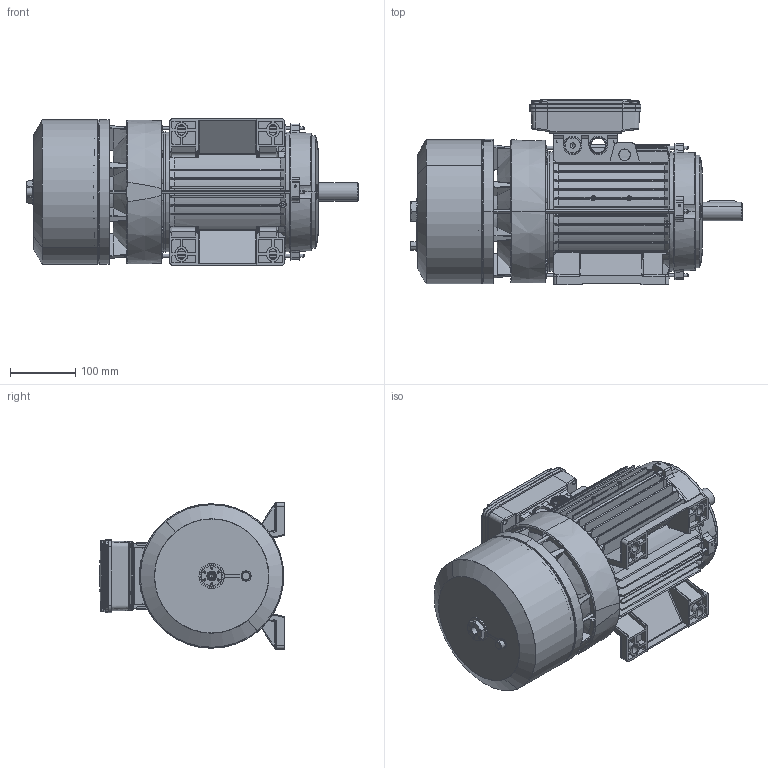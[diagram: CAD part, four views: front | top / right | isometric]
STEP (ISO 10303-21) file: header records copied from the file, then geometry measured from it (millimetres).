
FILE_DESCRIPTION (( 'STEP AP214' ), '1' );
FILE_NAME ('BA 112 B3 - DM.STEP', '2017-12-11T08:01:37', ( '' ), ( '' ), 'SwSTEP 2.0', 'SolidWorks 2017', '' );
FILE_SCHEMA (( 'AUTOMOTIVE_DESIGN' ));
Length unit declared in the file: millimetre
Products named in the file (15): Convogliatore con pista di attrito P2 BA 112-6; Scudo Lato Freno BA 112 P1 - DFAE0094; Albero BA 112; Carcassa 112 B3; BA 112 B3 - DM; Vite  a testa bombata M4x16; Scatola per Morsettiera Doppia 90-100-112 - Completa; Coperchio per Scatola per Morsettiera Doppia 90-100-112; Scatola per Morsettiera Doppia 90-100-112; Tirante BA 112 - DBA60094; O-ring freno BA 112; Vite a Testa Esagona con foro e tappo 71-112 - Modificata; Scudo Lato Comando B3 BA-BM 112 - DFAD0194; Chiavetta 100-112; Cuffia serie BA 112
Assembly tree (20 placements, depth 3):
  BA 112 B3 - DM
    Carcassa 112 B3
    Albero BA 112
    Scudo Lato Freno BA 112 P1 - DFAE0094
    Convogliatore con pista di attrito P2 BA 112-6
    Cuffia serie BA 112
    Chiavetta 100-112
    Scudo Lato Comando B3 BA-BM 112 - DFAD0194
    Vite a Testa Esagona con foro e tappo 71-112 - Modificata
    O-ring freno BA 112
    Tirante BA 112 - DBA60094  x4
    Scatola per Morsettiera Doppia 90-100-112 - Completa
      Scatola per Morsettiera Doppia 90-100-112
      Coperchio per Scatola per Morsettiera Doppia 90-100-112
      Vite  a testa bombata M4x16  x4
Bounding box: 507.68 x 284 x 224 mm (x, y, z)
Volume: 2680092.2 mm3; surface area: 1410681.1 mm2
Topology: 23 solids, 23 shells, 3925 faces, 10425 edges, 6580 vertices
Faces by surface type: plane 1274, cylinder 1205, bspline 588, cone 449, torus 409
Entity records: 146729 total; most frequent: CARTESIAN_POINT 57817, ORIENTED_EDGE 19666, DIRECTION 15881, EDGE_CURVE 9833, VERTEX_POINT 6256, AXIS2_PLACEMENT_3D 6114, EDGE_LOOP 3879, FACE_OUTER_BOUND 3673
